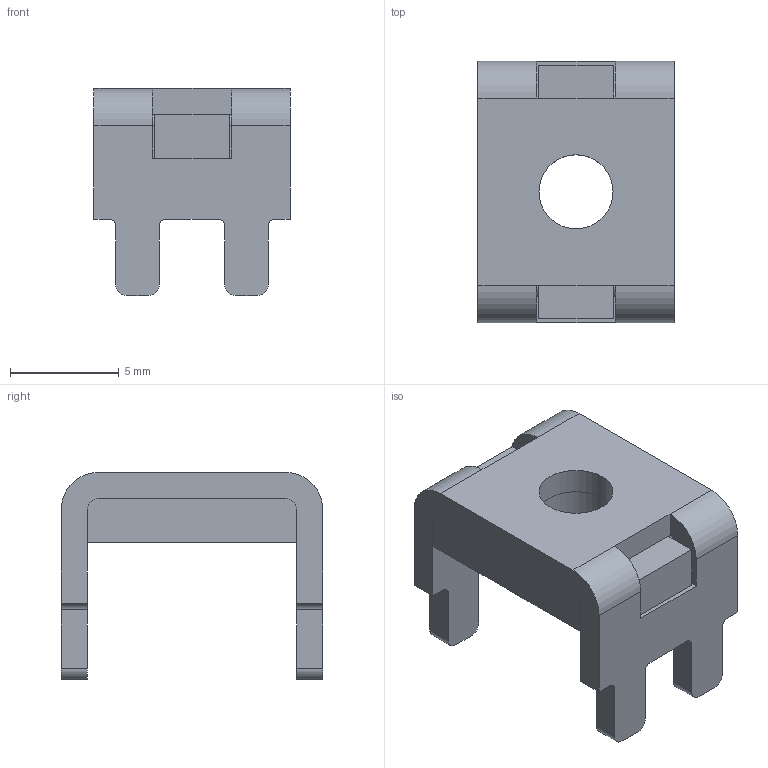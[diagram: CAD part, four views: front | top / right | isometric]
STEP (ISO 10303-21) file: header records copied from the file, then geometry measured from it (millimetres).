
FILE_DESCRIPTION(/* description */ (''),/* implementation_level */ '2;1');
FILE_NAME(/* name */ '9x12料厚1.2铁板 中心距离5.0脚宽2.0高度6.0mm 脚长3.5mm.stp',/* time_stamp */ '2025-06-26T21:25:06+08:00',/* author */ (''),/* organization */ (''),/* preprocessor_version */ 'ST-DEVELOPER v16',/* originating_system */ 'SIEMENS PLM Software NX 10.0',/* authorisation */ '');
FILE_SCHEMA (('AP203_CONFIGURATION_CONTROLLED_3D_DESIGN_OF_MECHANICAL_PARTS_AND_ASSEMBLIES_MIM_LF { 1 0 10303 403 2 1 2}'));
Length unit declared in the file: millimetre
Products named in the file (1): Admi2ABC7C88fxof
Bounding box: 9 x 12 x 9.5 mm (x, y, z)
Volume: 385.2 mm3; surface area: 779.3 mm2
Topology: 2 solids, 2 shells, 78 faces, 227 edges, 149 vertices
Faces by surface type: plane 48, cylinder 30
Full cylindrical faces by diameter (mm): 3.4 x2
Entity records: 2662 total; most frequent: CARTESIAN_POINT 451, ORIENTED_EDGE 448, DIRECTION 442, EDGE_CURVE 224, LINE 164, VECTOR 164, VERTEX_POINT 148, AXIS2_PLACEMENT_3D 139
